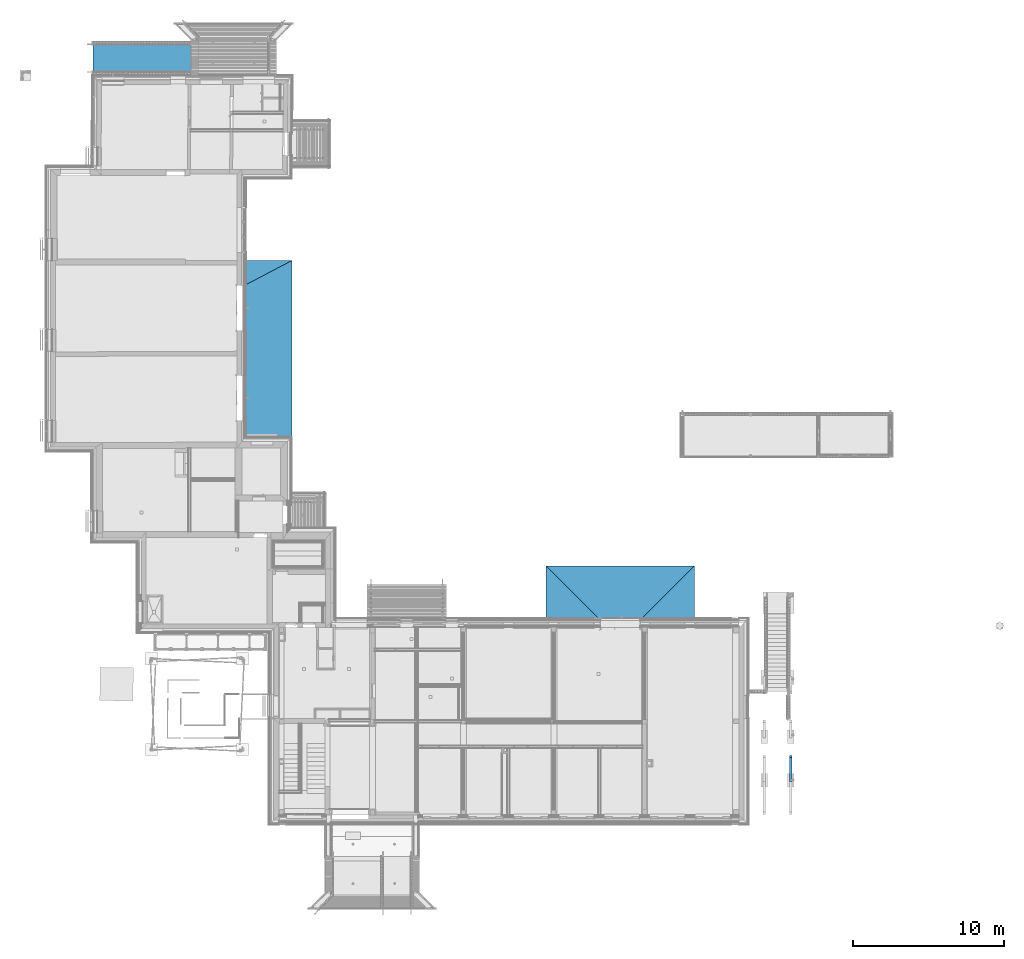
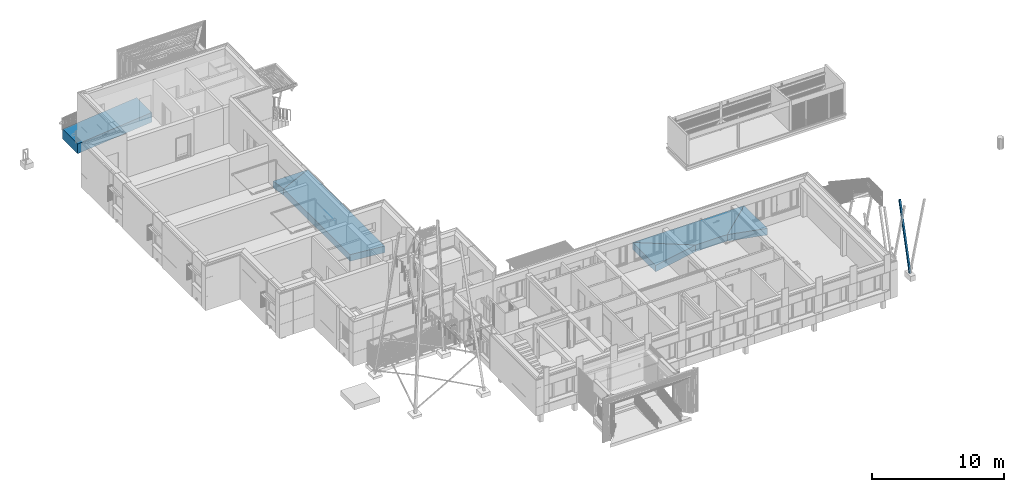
# One storey, part 27 of 418: 6 ramps, 1 stair.
"""IFC2X3 building model written with IfcOpenShell, lengths in millimetres."""

from ifc_helpers import new_model, entity, si_unit, converted_unit, derived_unit, money_unit, direction, frame, origin_with_axes, origin_2d_with_axis, place, context, subcontext, project, spatial, polyline, rectangle, outline, extrude, boolean, faceted_brep, material, element, save


model = new_model("IFC2X3")

# Units and contexts
model_context = context("Model", 3, precision=0.01, world=origin_with_axes(), true_north=direction((0.0, 1.0)))
body_context = subcontext(model_context, "Body", "Model", "MODEL_VIEW")
ifc_project = project(units=[si_unit("LENGTHUNIT", "METRE", prefix="MILLI"), si_unit("AREAUNIT", "SQUARE_METRE"), si_unit("VOLUMEUNIT", "CUBIC_METRE"), converted_unit("PLANEANGLEUNIT", "DEGREE", entity("IfcPlaneAngleMeasure", 0.0174532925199), si_unit("PLANEANGLEUNIT", "RADIAN"), dimensions=[0, 0, 0, 0, 0, 0, 0]), si_unit("SOLIDANGLEUNIT", "STERADIAN"), money_unit("EUR"), converted_unit("TIMEUNIT", "Year", entity("IfcTimeMeasure", 31556926.0), si_unit("TIMEUNIT", "SECOND"), dimensions=[0, 0, 1, 0, 0, 0, 0]), si_unit("MASSUNIT", "GRAM", prefix="KILO"), si_unit("THERMODYNAMICTEMPERATUREUNIT", "DEGREE_CELSIUS"), si_unit("LUMINOUSINTENSITYUNIT", "LUMEN"), si_unit("ENERGYUNIT", "JOULE", prefix="MEGA"), derived_unit("THERMALCONDUCTANCEUNIT", [(si_unit("POWERUNIT", "WATT"), 1), (si_unit("LENGTHUNIT", "METRE"), -1), (si_unit("THERMODYNAMICTEMPERATUREUNIT", "KELVIN"), -1)]), derived_unit("SPECIFICHEATCAPACITYUNIT", [(si_unit("ENERGYUNIT", "JOULE"), 1), (si_unit("MASSUNIT", "GRAM", prefix="KILO"), -1), (si_unit("THERMODYNAMICTEMPERATUREUNIT", "KELVIN"), -1)]), derived_unit("MASSDENSITYUNIT", [(si_unit("MASSUNIT", "GRAM", prefix="KILO"), 1), (si_unit("VOLUMEUNIT", "CUBIC_METRE"), -1)])], contexts=[model_context])

# Site, building, storey
site_placement = place(None, origin_with_axes())
site = spatial("IfcSite", under=ifc_project, at=site_placement, Name="Paldiski mnt 245/1, Tallinn, Harjumaa", CompositionType="COMPLEX")
building_placement = place(site_placement, origin_with_axes())
building = spatial("IfcBuilding", under=site, at=building_placement, Name="RKAS Hoone üldnimetus (kasutust iseloomustav) -> IFC Project Manager -> SOLIBRI", CompositionType="ELEMENT")
storey_placement = place(building_placement, origin_with_axes())
storey = spatial("IfcBuildingStorey", under=building, at=storey_placement, Name="Esimene korrus", CompositionType="ELEMENT", Elevation=0.0)

# Stair
ifc_material_1 = material(Name="ET-05_Teras")
stair_placement = place(storey_placement, frame((-13813.0000282, -10201.0515131, -560.0), z_axis=(0.0, 0.0, 1.0), x_axis=(1.0, 0.0, 0.0)))
element("IfcStair", 1, at=stair_placement, inside=storey, material=ifc_material_1, Name="Teraspost", ShapeType="NOTDEFINED", context=body_context, shape_type="CSG", body=[
    boolean("DIFFERENCE", boolean("DIFFERENCE", extrude(rectangle(XDim=150.0, YDim=150.0, at=origin_2d_with_axis()), frame((0.0, -5.20645293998, -19.4307468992), z_axis=(0.0, 0.258819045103, 0.965925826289), x_axis=(1.0, 0.0, 0.0)), (0.0, 0.0, 1.0), 6086.82714668), faceted_brep([(-75.0, 77.6457135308, 0.0), (75.0, 77.6457135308, 0.0), (75.0, 67.2379840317, -38.8421752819), (-75.0, 67.2379840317, -38.8421752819), (75.0, -77.6457135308, 0.0), (-75.0, -77.6457135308, 0.0), (75.0, -77.6508899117, -0.019318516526), (-75.0, -77.6508899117, -0.019318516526)], [[[0, 1, 2, 3]], [[4, 1, 0, 5]], [[1, 4, 6, 2]], [[2, 6, 7, 3]], [[5, 0, 3, 7]], [[4, 5, 7, 6]]])), faceted_brep([(75.0, 1497.73072351, 5879.3849041), (75.0, 1622.5043356, 5765.49086808), (75.0, 1642.62477384, 5840.58136585), (75.0, 1497.7358999, 5879.40422262), (-75.0, 1622.5043356, 5765.49086808), (-75.0, 1497.73072351, 5879.3849041), (-75.0, 1642.62477384, 5840.58136585), (-75.0, 1497.7358999, 5879.40422262)], [[[0, 1, 2, 3]], [[4, 1, 0, 5]], [[1, 4, 6, 2]], [[7, 3, 2, 6]], [[5, 0, 3, 7]], [[4, 5, 7, 6]]])),
])

# Ramps
ifc_material_2 = material(Name="KON-06_Raudbetoon - Konstruktsioon")
ramp_1_placement = place(storey_placement, frame((-20166.9696475, 440.000061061, -1276.59670351), z_axis=(0.0, 0.0, 1.0), x_axis=(0.0, 1.0, 0.0)))
element("IfcRamp", 2, at=ramp_1_placement, inside=storey, material=ifc_material_2, Name="Pandus", ShapeType="NOTDEFINED", context=body_context, shape_type="SweptSolid", body=[
    extrude(outline(polyline([(3511.06290761, 1.45988177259e-07), (0.404144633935, 3570.49721421), (0.0, -3.61126306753e-07), (3511.06290761, 1.45988177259e-07)])), frame((0.0, 0.0, 0.0), z_axis=(0.0, -0.181699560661, 0.983354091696), x_axis=(1.0, 0.0, 0.0)), (0.0, 0.181699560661, 0.983354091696), 616.59670348),
])
ramp_2_placement = place(storey_placement, frame((-29970.2376993, 3951.28787039, -1276.95049615), z_axis=(0.0, 0.0, 1.0), x_axis=(0.0, -1.0, 0.0)))
element("IfcRamp", 3, at=ramp_2_placement, inside=storey, material=ifc_material_2, Name="Pandus", ShapeType="NOTDEFINED", context=body_context, shape_type="SweptSolid", body=[
    extrude(outline(polyline([(0.0276695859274, 3.26760380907e-07), (3511.4109296, -1.8067761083e-07), (3511.00674809, 3572.87186521), (0.0276695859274, 3.26760380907e-07)])), frame((0.0, 0.0, 0.0), z_axis=(0.0, -0.184725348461, 0.982790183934), x_axis=(1.0, 0.0, 0.0)), (0.0, 0.184725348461, 0.982790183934), 616.950495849),
])
ramp_3_placement = place(storey_placement, frame((-25953.6138449, 3951.28786915, -1276.62147186), z_axis=(0.0, 0.0, 1.0), x_axis=(-1.0, 0.0, 0.0)))
element("IfcRamp", 4, at=ramp_3_placement, inside=storey, material=ifc_material_2, Name="Pandus", ShapeType="NOTDEFINED", context=body_context, shape_type="SweptSolid", body=[
    extrude(outline(polyline([(-2286.75934203, 3559.68262449), (-5786.64419741, 1.54907290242e-07), (4016.62385407, -1.26096431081e-06), (516.739000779, 3559.68262136), (-2286.75934203, 3559.68262449)])), frame((0.0, 0.0, 0.0), z_axis=(0.0, -0.181913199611, 0.983314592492), x_axis=(1.0, 0.0, 0.0)), (0.0, 0.181913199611, 0.983314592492), 616.621471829),
])
ramp_4_placement = place(storey_placement, frame((-59923.2887512, 38176.7311931, -1572.59215046), z_axis=(0.0, 0.0, 1.0), x_axis=(0.0, -1.0, 0.0)))
element("IfcRamp", 5, at=ramp_4_placement, inside=storey, material=ifc_material_2, Name="Pandus", ShapeType="NOTDEFINED", context=body_context, shape_type="SweptSolid", body=[
    extrude(outline(polyline([(1875.90246878, 0.0), (1875.90246878, 6535.95614707), (-413.0, 6535.95614707), (-413.0, 0.0), (1875.90246878, 0.0)])), frame((0.0, 0.0, 0.0), z_axis=(0.0, -0.099503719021, 0.99503719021), x_axis=(1.0, 0.0, 0.0)), (0.0, 0.099503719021, 0.99503719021), 900.0),
])
ramp_5_placement = place(storey_placement, frame((-46770.0, 12439.8287248, -868.519326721), z_axis=(0.0, 0.0, 1.0), x_axis=(0.0, 1.0, 0.0)))
element("IfcRamp", 6, at=ramp_5_placement, inside=storey, material=ifc_material_2, Name="Pandus", ShapeType="NOTDEFINED", context=body_context, shape_type="SweptSolid", body=[
    extrude(outline(polyline([(-4.33713509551e-07, 3065.04068795), (0.0, 0.0), (11689.820359, 0.0), (10087.2878051, 3065.04068503), (-4.33713509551e-07, 3065.04068795)])), frame((0.0, 0.0, 0.0), z_axis=(0.0, -0.0846945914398, 0.996406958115), x_axis=(1.0, 0.0, 0.0)), (0.0, 0.0846945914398, 0.996406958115), 608.519326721),
])
ramp_6_placement = place(storey_placement, frame((-46769.9999609, 24129.3094896, -874.198748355), z_axis=(0.0, 0.0, 1.0), x_axis=(-1.0, 0.0, 0.0)))
element("IfcRamp", 7, at=ramp_6_placement, inside=storey, material=ifc_material_2, Name="Pandus", ShapeType="NOTDEFINED", context=body_context, shape_type="SweptSolid", body=[
    extrude(outline(polyline([(3.90893717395e-05, -0.344021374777), (3054.21696269, 0.0121209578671), (3054.02790443, 1623.08050613), (3.90893717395e-05, -0.344021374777)])), frame((0.0, 0.0, 0.0), z_axis=(0.0, -0.159914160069, 0.987130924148), x_axis=(1.0, 0.0, 0.0)), (0.0, 0.159914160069, 0.987130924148), 614.237561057),
])

save(model, "model.ifc")
